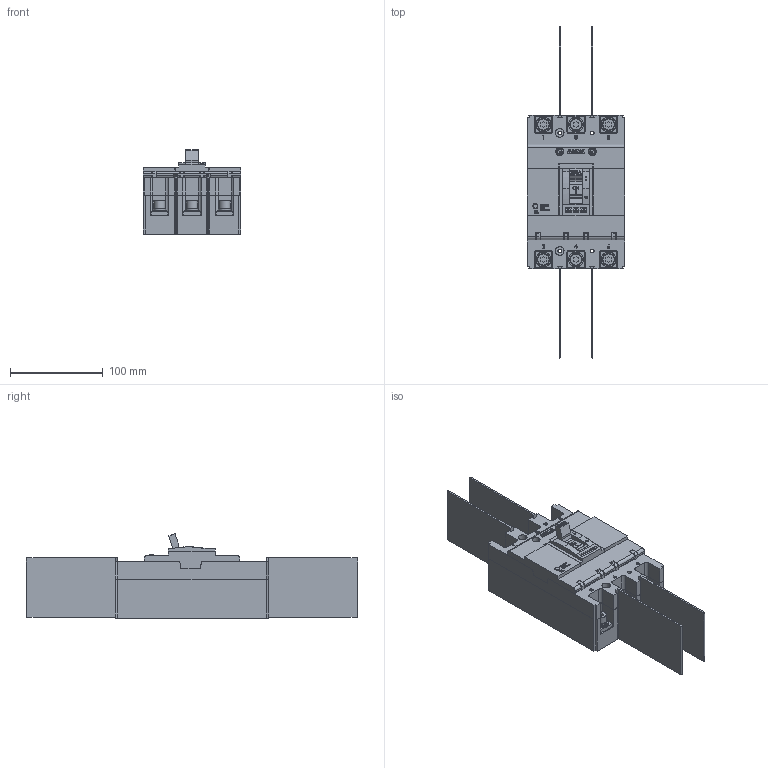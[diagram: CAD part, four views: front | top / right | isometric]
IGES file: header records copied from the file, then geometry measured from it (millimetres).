
Start section: SolidWorks IGES file using analytic representation for surfaces
Global section: file name: D:\X - Arquivos\PROEX\Empresas\P11 - METALTEX\01 - Produtos\IGES\5ª remessa\3ª etapa\DCM250S3.IGS; native system: SolidWorks 2012; preprocessor: SolidWorks 2012; author: Usuario; date: 180829.125130; units: millimetre
Bounding box: 105.3 x 357 x 90.62 mm (x, y, z)
Surface area: 174692 mm2 (no closed solid volume)
Topology: 0 solids, 0 shells, 1313 faces, 12907 edges, 12907 vertices
Faces by surface type: bspline 1159, revolution 154
